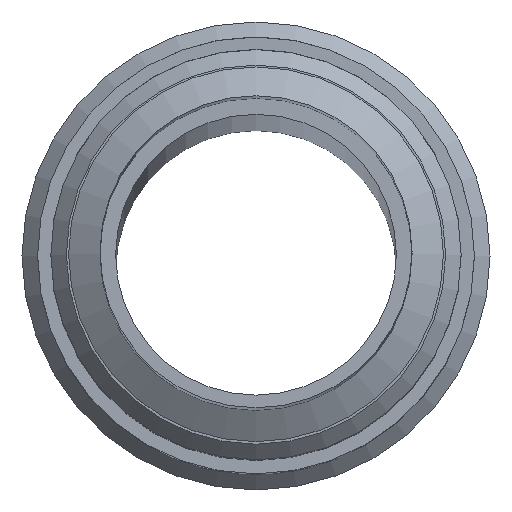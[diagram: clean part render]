
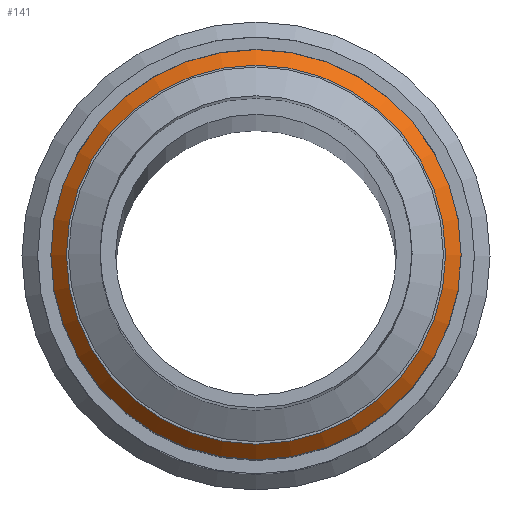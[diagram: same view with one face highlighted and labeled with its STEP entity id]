
A CAD part, top view. The second image highlights one B-rep face of the part: STEP entity #141.
In plain terms, the highlighted conical face has half-angle 45 degrees and reference radius 6.5 mm.
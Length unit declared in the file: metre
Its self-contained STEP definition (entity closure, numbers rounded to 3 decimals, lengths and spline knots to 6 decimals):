
#141=ADVANCED_FACE('',(#300,#301),#302,.T.);
#161=EDGE_CURVE('',#332,#332,#333,.T.);
#187=EDGE_CURVE('',#367,#367,#368,.T.);
#300=FACE_BOUND('',#470,.T.);
#301=FACE_OUTER_BOUND('',#471,.T.);
#302=CONICAL_SURFACE('',#472,0.0065,0.785);
#332=VERTEX_POINT('',#513);
#333=CIRCLE('',#514,0.006575);
#367=VERTEX_POINT('',#567);
#368=CIRCLE('',#568,0.006075);
#470=EDGE_LOOP('',(#716));
#471=EDGE_LOOP('',(#717));
#472=AXIS2_PLACEMENT_3D('',#718,#719,#720);
#513=CARTESIAN_POINT('',(-0.006575,0.,0.0235));
#514=AXIS2_PLACEMENT_3D('',#747,#748,#749);
#567=CARTESIAN_POINT('',(0.006075,0.,0.024));
#568=AXIS2_PLACEMENT_3D('',#774,#775,#776);
#716=ORIENTED_EDGE('',*,*,#187,.F.);
#717=ORIENTED_EDGE('',*,*,#161,.F.);
#718=CARTESIAN_POINT('',(0.0,0.,0.023575));
#719=DIRECTION('',(-0.0,0.0,-1.0));
#720=DIRECTION('',(-1.0,0.0,0.0));
#747=CARTESIAN_POINT('',(0.0,0.,0.0235));
#748=DIRECTION('',(0.0,0.0,-1.0));
#749=DIRECTION('',(-1.0,0.0,0.0));
#774=CARTESIAN_POINT('',(0.0,0.,0.024));
#775=DIRECTION('',(0.0,0.0,1.0));
#776=DIRECTION('',(1.0,0.0,-0.0));
